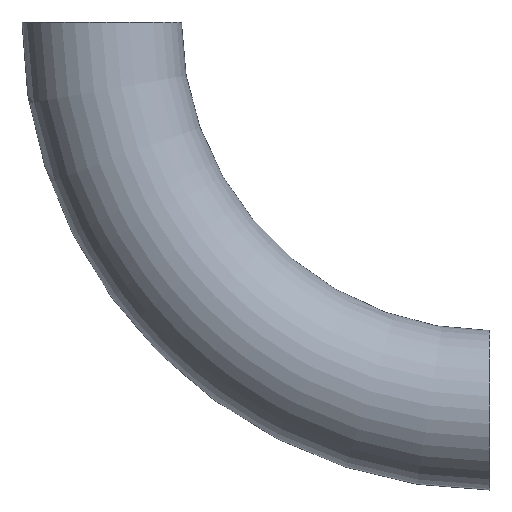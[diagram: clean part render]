
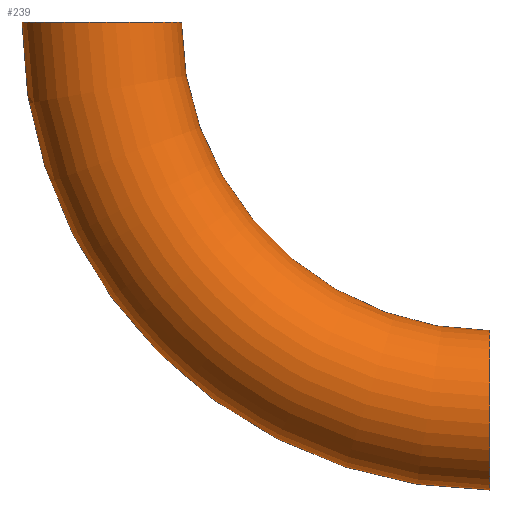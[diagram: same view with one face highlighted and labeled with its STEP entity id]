
A CAD part, front view. The second image highlights one B-rep face of the part: STEP entity #239.
In plain terms, the highlighted toroidal (fillet/blend) face has major radius 375 mm and minor radius 77 mm.
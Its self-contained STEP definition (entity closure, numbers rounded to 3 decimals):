
#4 = CIRCLE ( 'NONE', #27, 452. ) ;
#6 = VERTEX_POINT ( 'NONE', #78 ) ;
#7 = EDGE_CURVE ( 'NONE', #248, #6, #207, .T. ) ;
#13 = CARTESIAN_POINT ( 'NONE',  ( -375., 0., 0. ) ) ;
#15 = DIRECTION ( 'NONE',  ( -1., 0., 0. ) ) ;
#16 = DIRECTION ( 'NONE',  ( 1., 0., 0. ) ) ;
#20 = AXIS2_PLACEMENT_3D ( 'NONE', #240, #69, #150 ) ;
#24 = DIRECTION ( 'NONE',  ( 0., 1., 0. ) ) ;
#27 = AXIS2_PLACEMENT_3D ( 'NONE', #251, #157, #58 ) ;
#29 = CARTESIAN_POINT ( 'NONE',  ( -298., 0., 0. ) ) ;
#30 = ORIENTED_EDGE ( 'NONE', *, *, #148, .T. ) ;
#57 = EDGE_CURVE ( 'NONE', #248, #202, #4, .T. ) ;
#58 = DIRECTION ( 'NONE',  ( 0., 0., 1. ) ) ;
#61 = EDGE_LOOP ( 'NONE', ( #111, #74, #30, #183 ) ) ;
#69 = DIRECTION ( 'NONE',  ( 0., 1., 0. ) ) ;
#74 = ORIENTED_EDGE ( 'NONE', *, *, #7, .T. ) ;
#78 = CARTESIAN_POINT ( 'NONE',  ( 0., 0., -298. ) ) ;
#87 = CIRCLE ( 'NONE', #197, 298. ) ;
#98 = DIRECTION ( 'NONE',  ( 0., 0., 1. ) ) ;
#99 = AXIS2_PLACEMENT_3D ( 'NONE', #175, #15, #98 ) ;
#111 = ORIENTED_EDGE ( 'NONE', *, *, #57, .F. ) ;
#115 = DIRECTION ( 'NONE',  ( 0., 0., 1. ) ) ;
#119 = CARTESIAN_POINT ( 'NONE',  ( 0., 0., 0. ) ) ;
#121 = CIRCLE ( 'NONE', #252, 77. ) ;
#148 = EDGE_CURVE ( 'NONE', #6, #235, #87, .T. ) ;
#150 = DIRECTION ( 'NONE',  ( 0., 0., 1. ) ) ;
#157 = DIRECTION ( 'NONE',  ( 0., 1., 0. ) ) ;
#163 = FACE_OUTER_BOUND ( 'NONE', #61, .T. ) ;
#164 = CARTESIAN_POINT ( 'NONE',  ( 0., 0., -452. ) ) ;
#175 = CARTESIAN_POINT ( 'NONE',  ( 0., 0., -375. ) ) ;
#181 = EDGE_CURVE ( 'NONE', #202, #235, #121, .T. ) ;
#182 = CARTESIAN_POINT ( 'NONE',  ( -452., 0., 0. ) ) ;
#183 = ORIENTED_EDGE ( 'NONE', *, *, #181, .F. ) ;
#197 = AXIS2_PLACEMENT_3D ( 'NONE', #119, #24, #115 ) ;
#202 = VERTEX_POINT ( 'NONE', #182 ) ;
#207 = CIRCLE ( 'NONE', #99, 77. ) ;
#235 = VERTEX_POINT ( 'NONE', #29 ) ;
#238 = TOROIDAL_SURFACE ( 'NONE', #20, 375., 77. ) ;
#239 = ADVANCED_FACE ( 'NONE', ( #163 ), #238, .T. ) ;
#240 = CARTESIAN_POINT ( 'NONE',  ( 0., 0., 0. ) ) ;
#248 = VERTEX_POINT ( 'NONE', #164 ) ;
#250 = DIRECTION ( 'NONE',  ( 0., 0., 1. ) ) ;
#251 = CARTESIAN_POINT ( 'NONE',  ( 0., 0., 0. ) ) ;
#252 = AXIS2_PLACEMENT_3D ( 'NONE', #13, #250, #16 ) ;
